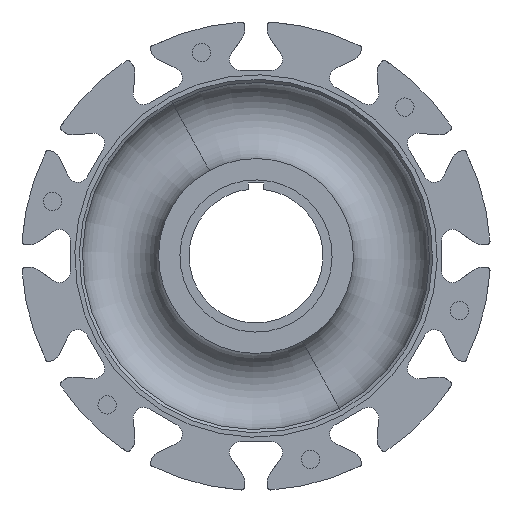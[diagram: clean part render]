
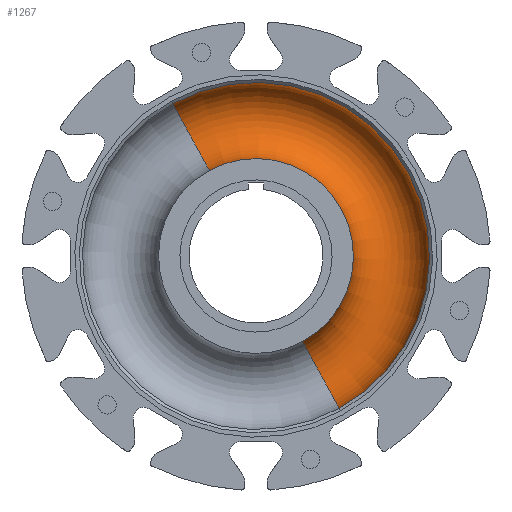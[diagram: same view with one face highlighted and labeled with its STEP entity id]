
A CAD part, left-side view. The second image highlights one B-rep face of the part: STEP entity #1267.
In plain terms, the highlighted toroidal (fillet/blend) face has major radius 89 mm and minor radius 25 mm.
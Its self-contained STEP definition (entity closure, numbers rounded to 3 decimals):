
#1208=AXIS2_PLACEMENT_3D('Circle Axis2P3D',#1206,#1207,$) ;
#1240=AXIS2_PLACEMENT_3D('Torus Axis2P3D',#1237,#1238,#1239) ;
#1244=AXIS2_PLACEMENT_3D('Circle Axis2P3D',#1242,#1243,$) ;
#1251=AXIS2_PLACEMENT_3D('Circle Axis2P3D',#1249,#1250,$) ;
#1258=AXIS2_PLACEMENT_3D('Circle Axis2P3D',#1256,#1257,$) ;
#1203=CARTESIAN_POINT('Vertex',(90.511,-30.683,-56.165)) ;
#1206=CARTESIAN_POINT('Axis2P3D Location',(90.511,0.,0.)) ;
#1210=CARTESIAN_POINT('Vertex',(90.511,30.683,56.165)) ;
#1237=CARTESIAN_POINT('Axis2P3D Location',(90.511,0.,0.)) ;
#1242=CARTESIAN_POINT('Axis2P3D Location',(90.511,-42.669,-78.105)) ;
#1246=CARTESIAN_POINT('Vertex',(90.511,-54.655,-100.044)) ;
#1249=CARTESIAN_POINT('Axis2P3D Location',(90.511,0.,0.)) ;
#1253=CARTESIAN_POINT('Vertex',(90.511,54.655,100.044)) ;
#1256=CARTESIAN_POINT('Axis2P3D Location',(90.511,42.669,78.105)) ;
#1207=DIRECTION('Axis2P3D Direction',(-1.,0.,0.)) ;
#1238=DIRECTION('Axis2P3D Direction',(-1.,0.,0.)) ;
#1239=DIRECTION('Axis2P3D XDirection',(0.,0.479,0.878)) ;
#1243=DIRECTION('Axis2P3D Direction',(0.,0.878,-0.479)) ;
#1250=DIRECTION('Axis2P3D Direction',(-1.,0.,0.)) ;
#1257=DIRECTION('Axis2P3D Direction',(0.,-0.878,0.479)) ;
#1262=ORIENTED_EDGE('',*,*,#1212,.F.) ;
#1263=ORIENTED_EDGE('',*,*,#1248,.T.) ;
#1264=ORIENTED_EDGE('',*,*,#1255,.T.) ;
#1265=ORIENTED_EDGE('',*,*,#1260,.F.) ;
#1267=ADVANCED_FACE('Corps principal',(#1266),#1241,.F.) ;
#1209=CIRCLE('generated circle',#1208,64.) ;
#1245=CIRCLE('generated circle',#1244,25.) ;
#1252=CIRCLE('generated circle',#1251,114.) ;
#1259=CIRCLE('generated circle',#1258,25.) ;
#1241=TOROIDAL_SURFACE('homeo Torus',#1240,89.,25.) ;
#1212=EDGE_CURVE('',#1204,#1211,#1209,.T.) ;
#1248=EDGE_CURVE('',#1204,#1247,#1245,.T.) ;
#1255=EDGE_CURVE('',#1247,#1254,#1252,.T.) ;
#1260=EDGE_CURVE('',#1211,#1254,#1259,.T.) ;
#1261=EDGE_LOOP('',(#1262,#1263,#1264,#1265)) ;
#1266=FACE_OUTER_BOUND('',#1261,.T.) ;
#1204=VERTEX_POINT('',#1203) ;
#1211=VERTEX_POINT('',#1210) ;
#1247=VERTEX_POINT('',#1246) ;
#1254=VERTEX_POINT('',#1253) ;
